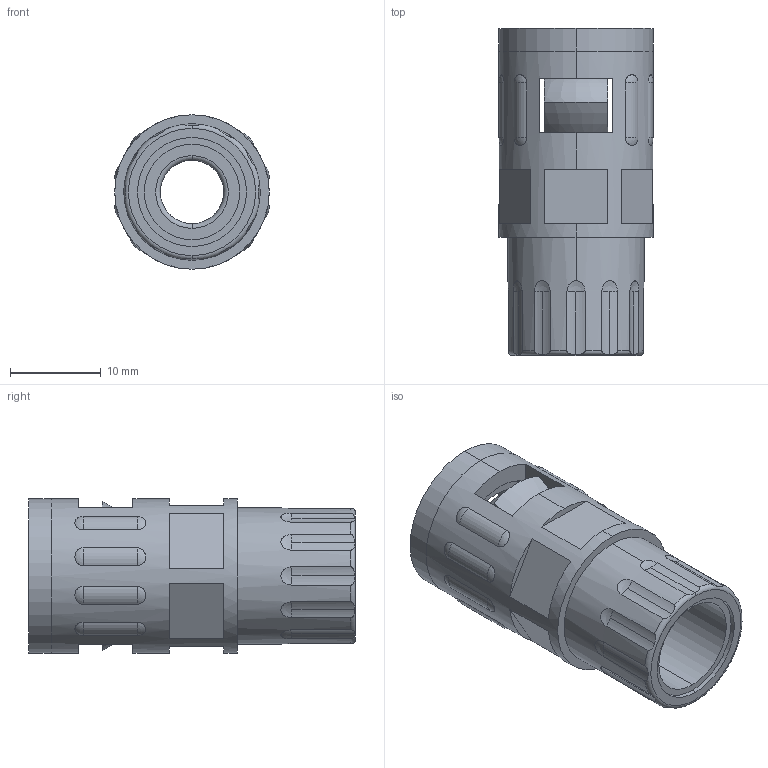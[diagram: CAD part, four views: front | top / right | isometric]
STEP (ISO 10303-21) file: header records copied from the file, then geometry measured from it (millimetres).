
FILE_DESCRIPTION (( 'STEP AP203' ), '1' );
FILE_NAME ('WQG2-M12-AD10.0.STEP', '2020-03-13T03:04:11', ( '' ), ( '' ), 'SwSTEP 2.0', 'SolidWorks 2016', '' );
FILE_SCHEMA (( 'CONFIG_CONTROL_DESIGN' ));
Length unit declared in the file: millimetre
Products named in the file (4): WQG2-M12-AD10.0-01; NSK-AD10.0; GFD-AD10.0; WQG2-M12-AD10.0
Assembly tree (3 placements, depth 2):
  WQG2-M12-AD10.0
    WQG2-M12-AD10.0-01
    GFD-AD10.0
    NSK-AD10.0
Bounding box: 17 x 36 x 17 mm (x, y, z)
Volume: 3235.4 mm3; surface area: 5452.2 mm2
Topology: 2 solids, 5 shells, 239 faces, 652 edges, 404 vertices
Faces by surface type: plane 65, cylinder 58, sphere 48, cone 46, torus 22
Entity records: 8476 total; most frequent: CARTESIAN_POINT 2240, DIRECTION 1276, ORIENTED_EDGE 1212, EDGE_CURVE 608, AXIS2_PLACEMENT_3D 544, VERTEX_POINT 388, CIRCLE 298, EDGE_LOOP 263
